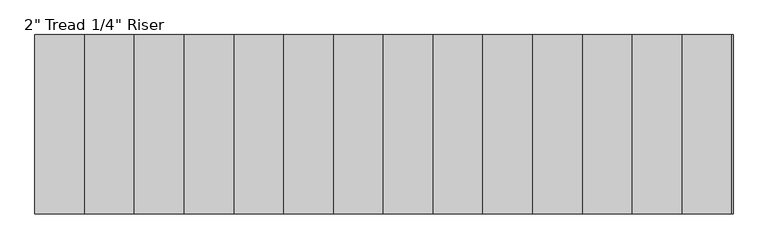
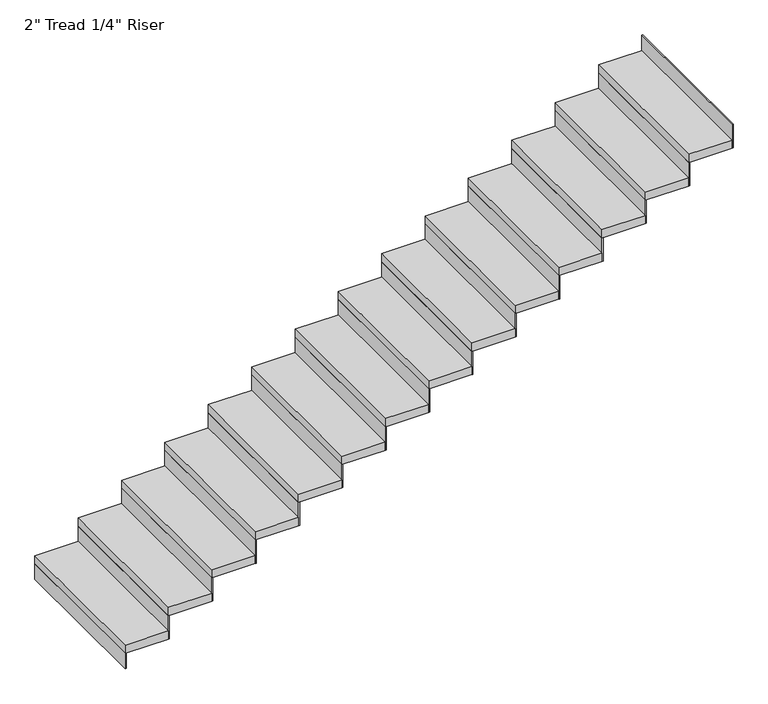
"""IFC4 building model written with IfcOpenShell, lengths in millimetres: stair flight geometry."""

from ifc_helpers import new_model, si_unit, frame, origin, origin_with_axes, place, context, project, spatial, polyline, outline, extrude, source, transform, mapped, element, save


def stair_flight_28e633dc(model_context):
    return source(origin(), model_context, "Body", "SweptSolid", [
        extrude(outline(polyline([(108752.5286089, 32313.9530185), (108746.1786089, 32313.9530185), (108746.1786089, 33228.3530185), (108752.5286089, 33228.3530185), (108752.5286089, 32313.9530185)])), origin_with_axes(), (0.0, 0.0, 1.0), 94.3428571),
        extrude(outline(polyline([(109000.1786089, 33228.3530185), (109000.1786089, 32313.9530185), (108746.1786089, 32313.9530185), (108746.1786089, 33228.3530185), (109000.1786089, 33228.3530185)])), frame((0.0, 0.0, 94.3428571), z_axis=(0.0, 0.0, 1.0), x_axis=(1.0, 0.0, 0.0)), (0.0, 0.0, 1.0), 50.8),
        extrude(outline(polyline([(109006.5286089, 32313.9530185), (109000.1786089, 32313.9530185), (109000.1786089, 33228.3530185), (109006.5286089, 33228.3530185), (109006.5286089, 32313.9530185)])), frame((0.0, 0.0, 94.3428571), z_axis=(0.0, 0.0, 1.0), x_axis=(1.0, 0.0, 0.0)), (0.0, 0.0, 1.0), 145.1428571),
        extrude(outline(polyline([(109254.1786089, 33228.3530185), (109254.1786089, 32313.9530185), (109000.1786089, 32313.9530185), (109000.1786089, 33228.3530185), (109254.1786089, 33228.3530185)])), frame((0.0, 0.0, 239.4857143), z_axis=(0.0, 0.0, 1.0), x_axis=(1.0, 0.0, 0.0)), (0.0, 0.0, 1.0), 50.8),
        extrude(outline(polyline([(109260.5286089, 32313.9530185), (109254.1786089, 32313.9530185), (109254.1786089, 33228.3530185), (109260.5286089, 33228.3530185), (109260.5286089, 32313.9530185)])), frame((0.0, 0.0, 239.4857143), z_axis=(0.0, 0.0, 1.0), x_axis=(1.0, 0.0, 0.0)), (0.0, 0.0, 1.0), 145.1428571),
        extrude(outline(polyline([(109508.1786089, 33228.3530185), (109508.1786089, 32313.9530185), (109254.1786089, 32313.9530185), (109254.1786089, 33228.3530185), (109508.1786089, 33228.3530185)])), frame((0.0, 0.0, 384.6285714), z_axis=(0.0, 0.0, 1.0), x_axis=(1.0, 0.0, 0.0)), (0.0, 0.0, 1.0), 50.8),
        extrude(outline(polyline([(109514.5286089, 32313.9530185), (109508.1786089, 32313.9530185), (109508.1786089, 33228.3530185), (109514.5286089, 33228.3530185), (109514.5286089, 32313.9530185)])), frame((0.0, 0.0, 384.6285714), z_axis=(0.0, 0.0, 1.0), x_axis=(1.0, 0.0, 0.0)), (0.0, 0.0, 1.0), 145.1428571),
        extrude(outline(polyline([(109762.1786089, 33228.3530185), (109762.1786089, 32313.9530185), (109508.1786089, 32313.9530185), (109508.1786089, 33228.3530185), (109762.1786089, 33228.3530185)])), frame((0.0, 0.0, 529.7714286), z_axis=(0.0, 0.0, 1.0), x_axis=(1.0, 0.0, 0.0)), (0.0, 0.0, 1.0), 50.8),
        extrude(outline(polyline([(109768.5286089, 32313.9530185), (109762.1786089, 32313.9530185), (109762.1786089, 33228.3530185), (109768.5286089, 33228.3530185), (109768.5286089, 32313.9530185)])), frame((0.0, 0.0, 529.7714286), z_axis=(0.0, 0.0, 1.0), x_axis=(1.0, 0.0, 0.0)), (0.0, 0.0, 1.0), 145.1428571),
        extrude(outline(polyline([(110016.1786089, 33228.3530185), (110016.1786089, 32313.9530185), (109762.1786089, 32313.9530185), (109762.1786089, 33228.3530185), (110016.1786089, 33228.3530185)])), frame((0.0, 0.0, 674.9142857), z_axis=(0.0, 0.0, 1.0), x_axis=(1.0, 0.0, 0.0)), (0.0, 0.0, 1.0), 50.8),
        extrude(outline(polyline([(110022.5286089, 32313.9530185), (110016.1786089, 32313.9530185), (110016.1786089, 33228.3530185), (110022.5286089, 33228.3530185), (110022.5286089, 32313.9530185)])), frame((0.0, 0.0, 674.9142857), z_axis=(0.0, 0.0, 1.0), x_axis=(1.0, 0.0, 0.0)), (0.0, 0.0, 1.0), 145.1428571),
        extrude(outline(polyline([(110270.1786089, 33228.3530185), (110270.1786089, 32313.9530185), (110016.1786089, 32313.9530185), (110016.1786089, 33228.3530185), (110270.1786089, 33228.3530185)])), frame((0.0, 0.0, 820.0571429), z_axis=(0.0, 0.0, 1.0), x_axis=(1.0, 0.0, 0.0)), (0.0, 0.0, 1.0), 50.8),
        extrude(outline(polyline([(110276.5286089, 32313.9530185), (110270.1786089, 32313.9530185), (110270.1786089, 33228.3530185), (110276.5286089, 33228.3530185), (110276.5286089, 32313.9530185)])), frame((0.0, 0.0, 820.0571429), z_axis=(0.0, 0.0, 1.0), x_axis=(1.0, 0.0, 0.0)), (0.0, 0.0, 1.0), 145.1428571),
        extrude(outline(polyline([(110524.1786089, 33228.3530185), (110524.1786089, 32313.9530185), (110270.1786089, 32313.9530185), (110270.1786089, 33228.3530185), (110524.1786089, 33228.3530185)])), frame((0.0, 0.0, 965.2), z_axis=(0.0, 0.0, 1.0), x_axis=(1.0, 0.0, 0.0)), (0.0, 0.0, 1.0), 50.8),
        extrude(outline(polyline([(110530.5286089, 32313.9530185), (110524.1786089, 32313.9530185), (110524.1786089, 33228.3530185), (110530.5286089, 33228.3530185), (110530.5286089, 32313.9530185)])), frame((0.0, 0.0, 965.2), z_axis=(0.0, 0.0, 1.0), x_axis=(1.0, 0.0, 0.0)), (0.0, 0.0, 1.0), 145.1428571),
        extrude(outline(polyline([(110778.1786089, 33228.3530185), (110778.1786089, 32313.9530185), (110524.1786089, 32313.9530185), (110524.1786089, 33228.3530185), (110778.1786089, 33228.3530185)])), frame((0.0, 0.0, 1110.3428571), z_axis=(0.0, 0.0, 1.0), x_axis=(1.0, 0.0, 0.0)), (0.0, 0.0, 1.0), 50.8),
        extrude(outline(polyline([(110784.5286089, 32313.9530185), (110778.1786089, 32313.9530185), (110778.1786089, 33228.3530185), (110784.5286089, 33228.3530185), (110784.5286089, 32313.9530185)])), frame((0.0, 0.0, 1110.3428571), z_axis=(0.0, 0.0, 1.0), x_axis=(1.0, 0.0, 0.0)), (0.0, 0.0, 1.0), 145.1428571),
        extrude(outline(polyline([(111032.1786089, 33228.3530185), (111032.1786089, 32313.9530185), (110778.1786089, 32313.9530185), (110778.1786089, 33228.3530185), (111032.1786089, 33228.3530185)])), frame((0.0, 0.0, 1255.4857143), z_axis=(0.0, 0.0, 1.0), x_axis=(1.0, 0.0, 0.0)), (0.0, 0.0, 1.0), 50.8),
        extrude(outline(polyline([(111038.5286089, 32313.9530185), (111032.1786089, 32313.9530185), (111032.1786089, 33228.3530185), (111038.5286089, 33228.3530185), (111038.5286089, 32313.9530185)])), frame((0.0, 0.0, 1255.4857143), z_axis=(0.0, 0.0, 1.0), x_axis=(1.0, 0.0, 0.0)), (0.0, 0.0, 1.0), 145.1428571),
        extrude(outline(polyline([(111286.1786089, 33228.3530185), (111286.1786089, 32313.9530185), (111032.1786089, 32313.9530185), (111032.1786089, 33228.3530185), (111286.1786089, 33228.3530185)])), frame((0.0, 0.0, 1400.6285714), z_axis=(0.0, 0.0, 1.0), x_axis=(1.0, 0.0, 0.0)), (0.0, 0.0, 1.0), 50.8),
        extrude(outline(polyline([(111292.5286089, 32313.9530185), (111286.1786089, 32313.9530185), (111286.1786089, 33228.3530185), (111292.5286089, 33228.3530185), (111292.5286089, 32313.9530185)])), frame((0.0, 0.0, 1400.6285714), z_axis=(0.0, 0.0, 1.0), x_axis=(1.0, 0.0, 0.0)), (0.0, 0.0, 1.0), 145.1428571),
        extrude(outline(polyline([(111540.1786089, 33228.3530185), (111540.1786089, 32313.9530185), (111286.1786089, 32313.9530185), (111286.1786089, 33228.3530185), (111540.1786089, 33228.3530185)])), frame((0.0, 0.0, 1545.7714286), z_axis=(0.0, 0.0, 1.0), x_axis=(1.0, 0.0, 0.0)), (0.0, 0.0, 1.0), 50.8),
        extrude(outline(polyline([(111546.5286089, 32313.9530185), (111540.1786089, 32313.9530185), (111540.1786089, 33228.3530185), (111546.5286089, 33228.3530185), (111546.5286089, 32313.9530185)])), frame((0.0, 0.0, 1545.7714286), z_axis=(0.0, 0.0, 1.0), x_axis=(1.0, 0.0, 0.0)), (0.0, 0.0, 1.0), 145.1428571),
        extrude(outline(polyline([(111794.1786089, 33228.3530185), (111794.1786089, 32313.9530185), (111540.1786089, 32313.9530185), (111540.1786089, 33228.3530185), (111794.1786089, 33228.3530185)])), frame((0.0, 0.0, 1690.9142857), z_axis=(0.0, 0.0, 1.0), x_axis=(1.0, 0.0, 0.0)), (0.0, 0.0, 1.0), 50.8),
        extrude(outline(polyline([(111800.5286089, 32313.9530185), (111794.1786089, 32313.9530185), (111794.1786089, 33228.3530185), (111800.5286089, 33228.3530185), (111800.5286089, 32313.9530185)])), frame((0.0, 0.0, 1690.9142857), z_axis=(0.0, 0.0, 1.0), x_axis=(1.0, 0.0, 0.0)), (0.0, 0.0, 1.0), 145.1428571),
        extrude(outline(polyline([(112048.1786089, 33228.3530185), (112048.1786089, 32313.9530185), (111794.1786089, 32313.9530185), (111794.1786089, 33228.3530185), (112048.1786089, 33228.3530185)])), frame((0.0, 0.0, 1836.0571429), z_axis=(0.0, 0.0, 1.0), x_axis=(1.0, 0.0, 0.0)), (0.0, 0.0, 1.0), 50.8),
        extrude(outline(polyline([(112054.5286089, 32313.9530185), (112048.1786089, 32313.9530185), (112048.1786089, 33228.3530185), (112054.5286089, 33228.3530185), (112054.5286089, 32313.9530185)])), frame((0.0, 0.0, 1836.0571429), z_axis=(0.0, 0.0, 1.0), x_axis=(1.0, 0.0, 0.0)), (0.0, 0.0, 1.0), 145.1428571),
        extrude(outline(polyline([(112308.5286089, 32313.9530185), (112302.1786089, 32313.9530185), (112302.1786089, 33228.3530185), (112308.5286089, 33228.3530185), (112308.5286089, 32313.9530185)])), frame((0.0, 0.0, 1981.2), z_axis=(0.0, 0.0, 1.0), x_axis=(1.0, 0.0, 0.0)), (0.0, 0.0, 1.0), 145.1428571),
        extrude(outline(polyline([(112302.1786089, 33228.3530185), (112302.1786089, 32313.9530185), (112048.1786089, 32313.9530185), (112048.1786089, 33228.3530185), (112302.1786089, 33228.3530185)])), frame((0.0, 0.0, 1981.2), z_axis=(0.0, 0.0, 1.0), x_axis=(1.0, 0.0, 0.0)), (0.0, 0.0, 1.0), 50.8),
    ])


if __name__ == "__main__":
    model = new_model("IFC4")
    model_context = context("Model", 3, world=origin())
    ifc_project = project(units=[si_unit("LENGTHUNIT", "METRE", prefix="MILLI")], contexts=[model_context])
    site = spatial("IfcSite", under=ifc_project)
    building = spatial("IfcBuilding", under=site)
    placement = place(None, origin())
    stair_flight_shape = stair_flight_28e633dc(model_context)
    element("IfcStairFlight", 1, ObjectType="2\" Tread 1/4\" Riser", at=placement, inside=building, context=model_context, shape_type="MappedRepresentation", body=[
        mapped(stair_flight_shape, transform((0.0, 0.0, 0.0), x_axis=(1.0, 0.0, 0.0), y_axis=(0.0, 1.0, 0.0), z_axis=(0.0, 0.0, 1.0))),
    ])
    save(model, "model.ifc")
